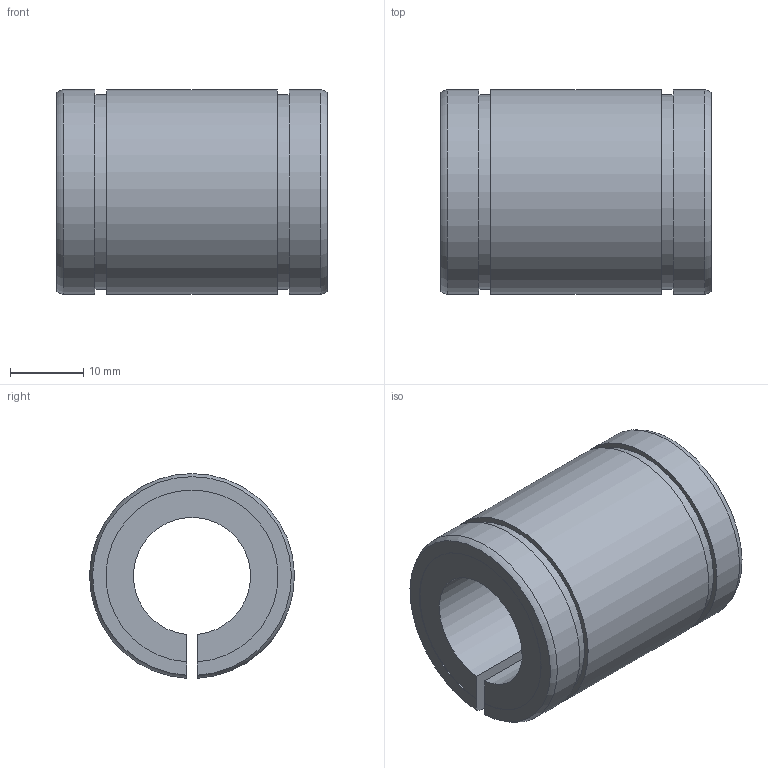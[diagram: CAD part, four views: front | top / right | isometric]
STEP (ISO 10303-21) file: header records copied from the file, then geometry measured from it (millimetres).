
FILE_DESCRIPTION((''),'2;1');
FILE_NAME('D:\製品 (図面)\カタログ用3D\リニアベアリング関連\STEP形式\L-ADJ\L16-ADJ.stp','2010-06-02T17:36:21',('Tsuchiya'),(''),'Autodesk Inventor 10','Autodesk Inventor 10','');
FILE_SCHEMA(('AUTOMOTIVE_DESIGN { 1 0 10303 214 1 1 1 1 }'));
Length unit declared in the file: millimetre
Products named in the file (1): L16-ADJ
Bounding box: 37 x 27.99 x 27.98 mm (x, y, z)
Volume: 14747.1 mm3; surface area: 6421.6 mm2
Topology: 1 solids, 1 shells, 20 faces, 54 edges, 36 vertices
Faces by surface type: plane 10, cylinder 8, torus 2
Entity records: 681 total; most frequent: CARTESIAN_POINT 141, DIRECTION 110, ORIENTED_EDGE 108, EDGE_CURVE 54, AXIS2_PLACEMENT_3D 39, VERTEX_POINT 36, VECTOR 32, LINE 32
